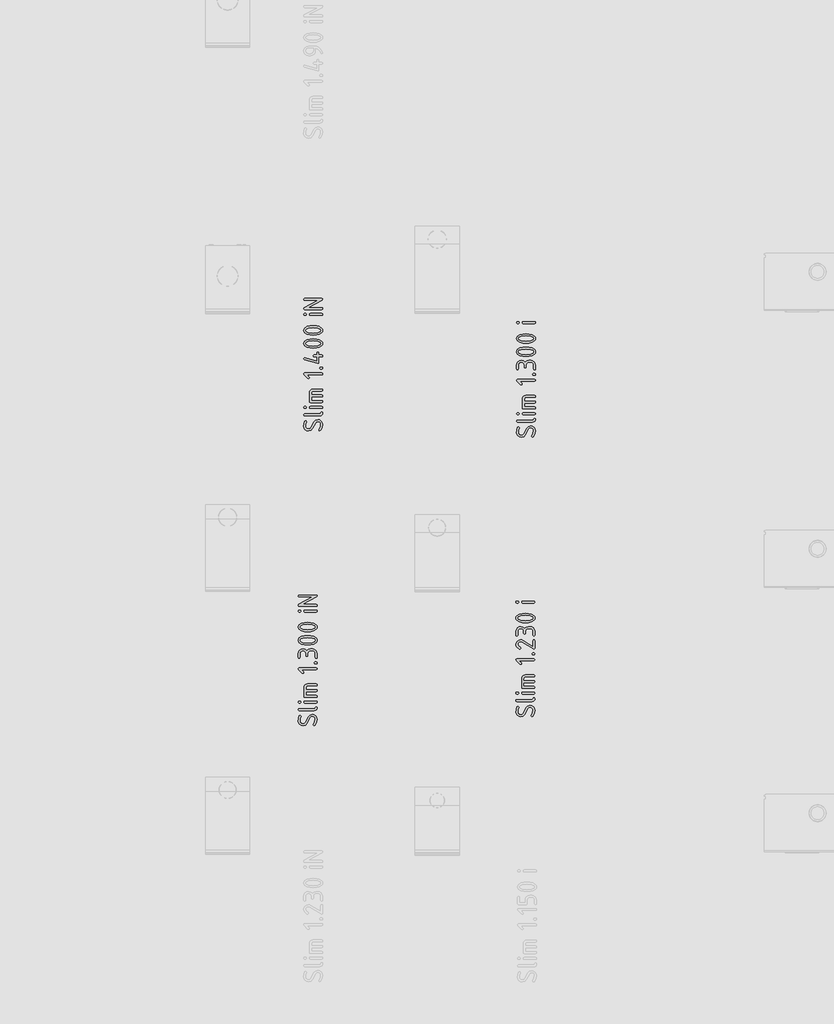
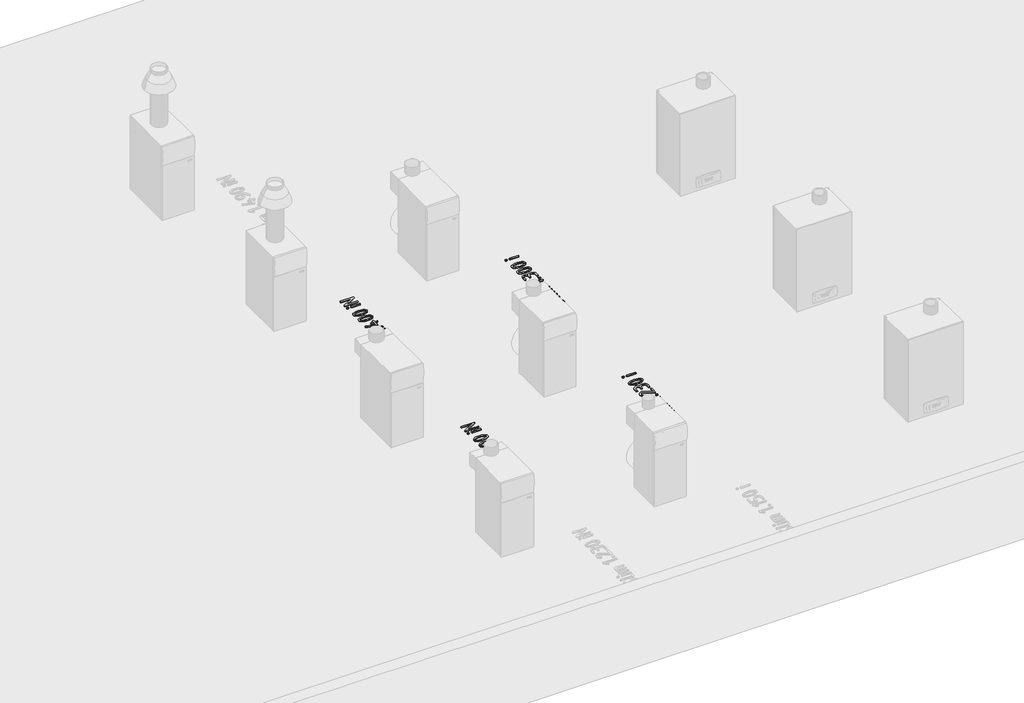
# One storey, part 9 of 37: 4 proxies.
"""IFC4 building model written with IfcOpenShell, lengths in millimetres."""

from ifc_helpers import new_model, si_unit, origin, origin_with_axes, place, context, project, spatial, polyline, outline, extrude, element, save

model = new_model("IFC4")

# Units and contexts
model_context = context("Model", 3, world=origin())
ifc_project = project(units=[si_unit("LENGTHUNIT", "METRE", prefix="MILLI")], contexts=[model_context])

# Site, building, storey
site = spatial("IfcSite", under=ifc_project)
building = spatial("IfcBuilding", under=site)
storey = spatial("IfcBuildingStorey", under=building, Name="01_Стартовый вид_Площадка", Elevation=0.0)

# Proxies
placement = place(None, origin())
element("IfcBuildingElementProxy", 1, Name="150 мм", ObjectType="150 мм", at=placement, inside=storey, context=model_context, shape_type="SweptSolid", body=[
    extrude(outline(polyline([(5779.9176697, -14982.2348931), (5794.3102344, -14984.9765718), (5806.4854851, -14993.2016078), (5814.7854305, -15005.2619977), (5817.5520789, -15019.5097378), (5813.3671486, -15045.5282187), (5800.8123576, -15068.4504504), (5794.6997625, -15071.7264817), (5789.4061752, -15069.5291436), (5787.1888613, -15064.2954837), (5788.5472158, -15060.0606139), (5799.0145355, -15039.6053937), (5802.2106637, -15019.8293506), (5800.5576662, -15011.2797078), (5795.5986736, -15004.0884194), (5788.3025122, -14999.2043361), (5779.6380085, -14997.5763083), (5767.6725037, -15000.6625695), (5759.4224979, -15009.9213533), (5737.7687295, -15051.6308259), (5724.1552211, -15066.7025678), (5704.3292386, -15071.7264817), (5689.936674, -15068.9997849), (5677.7614232, -15060.8196944), (5669.4614779, -15048.8242258), (5666.6948295, -15034.651395), (5668.7823007, -15011.4694779), (5675.0447143, -14994.5000349), (5682.0362446, -14990.0654071), (5687.3298319, -14992.282721), (5689.5471458, -14997.5763083), (5688.7481138, -15000.6925332), (5683.7142119, -15017.5720851), (5682.0362446, -15034.3317822), (5683.6892422, -15042.8065158), (5688.6482348, -15049.9328828), (5695.9443961, -15054.7720206), (5704.6088998, -15056.3850665), (5716.5444409, -15053.3487448), (5724.7045557, -15044.2397795), (5746.358324, -15002.5702585), (5760.0617235, -14987.3187344), (5779.9176697, -14982.2348931)])), origin_with_axes(), (0.0, 0.0, 1.0), 10.0),
    extrude(outline(polyline([(5674.2456822, -14951.5520627), (5668.5825427, -14949.6343858), (5666.6948295, -14943.8813551), (5668.5825427, -14938.1283244), (5674.2456822, -14936.2106475), (5794.9394721, -14936.2106475), (5799.7136886, -14934.3379161), (5802.4503733, -14928.7197221), (5805.197046, -14923.101528), (5810.0012261, -14921.2287967), (5815.6643657, -14923.0965341), (5817.5520789, -14928.6997463), (5816.0538938, -14937.9235724), (5811.5593386, -14945.2197337), (5804.4080018, -14949.9689804), (5794.9394721, -14951.5520627), (5674.2456822, -14951.5520627)])), origin_with_axes(), (0.0, 0.0, 1.0), 10.0),
    extrude(outline(polyline([(5720.0302182, -14892.7433044), (5714.427006, -14890.8256275), (5712.5592686, -14885.0725968), (5714.427006, -14879.3195661), (5720.0302182, -14877.4018892), (5810.0411777, -14877.4018892), (5815.6743536, -14879.3195661), (5817.5520789, -14885.0725968), (5815.6743536, -14890.8256275), (5810.0411777, -14892.7433044), (5720.0302182, -14892.7433044)])), origin_with_axes(), (0.0, 0.0, 1.0), 10.0),
    extrude(outline(polyline([(5681.7166318, -14892.7433044), (5674.2057306, -14892.7433044), (5668.5725547, -14890.8256275), (5666.6948295, -14885.0725968), (5668.5725547, -14879.3195661), (5674.2057306, -14877.4018892), (5681.7166318, -14877.4018892), (5687.3498077, -14879.3195661), (5689.227533, -14885.0725968), (5687.3498077, -14890.8256275), (5681.7166318, -14892.7433044)])), origin_with_axes(), (0.0, 0.0, 1.0), 10.0),
    extrude(outline(polyline([(5712.719075, -14839.0483512), (5712.719075, -14770.0119828), (5714.8864495, -14758.1113994), (5721.3885727, -14748.2183839), (5731.0468725, -14741.5514603), (5742.6827766, -14739.3291524), (5810.0811293, -14739.3291524), (5815.6843415, -14741.2468293), (5817.5520789, -14746.99986), (5815.6843415, -14752.7528907), (5810.0811293, -14754.6705676), (5742.9624378, -14754.6705676), (5732.3552875, -14759.0852197), (5728.0604902, -14770.0119828), (5728.0604902, -14785.353398), (5810.0811293, -14785.353398), (5815.6843415, -14787.2710749), (5817.5520789, -14793.0241056), (5815.6843415, -14798.7771363), (5810.0811293, -14800.6948132), (5728.0604902, -14800.6948132), (5728.0604902, -14831.3776436), (5810.0811293, -14831.3776436), (5815.6843415, -14833.2953205), (5817.5520789, -14839.0483512), (5815.6843415, -14844.8013819), (5810.0811293, -14846.7190588), (5720.1900246, -14846.7190588), (5714.5868124, -14844.8013819), (5712.719075, -14839.0483512)])), origin_with_axes(), (0.0, 0.0, 1.0), 10.0),
    extrude(outline(polyline([(5692.4236612, -14626.825441), (5709.7227049, -14644.0845331), (5711.8800914, -14649.318193), (5710.0023661, -14654.9513689), (5704.3691902, -14656.8290942), (5699.1355303, -14654.631756), (5669.651248, -14625.3072801), (5666.6948295, -14619.1547334), (5668.5825427, -14613.4017027), (5674.2456822, -14611.4840258), (5810.0012261, -14611.4840258), (5815.6643657, -14613.4017027), (5817.5520789, -14619.1547334), (5815.6643657, -14624.9077641), (5810.0012261, -14626.825441), (5692.4236612, -14626.825441)])), origin_with_axes(), (0.0, 0.0, 1.0), 10.0),
    extrude(outline(polyline([(5802.2106637, -14580.8011954), (5796.457633, -14578.8835185), (5794.5399561, -14573.1304878), (5796.457633, -14567.3774571), (5802.2106637, -14565.4597802), (5809.8813713, -14565.4597802), (5815.634402, -14567.3774571), (5817.5520789, -14573.1304878), (5815.634402, -14578.8835185), (5809.8813713, -14580.8011954), (5802.2106637, -14580.8011954)])), origin_with_axes(), (0.0, 0.0, 1.0), 10.0),
    extrude(outline(polyline([(5666.6948295, -14497.6219599), (5669.446496, -14483.1944376), (5677.7014958, -14471.0741203), (5689.8617647, -14462.8490842), (5704.3292386, -14460.1074055), (5715.1261591, -14461.8153365), (5726.0229585, -14466.9391295), (5802.2106637, -14514.2018747), (5802.2106637, -14467.6183067), (5804.1283406, -14461.9851308), (5809.8813713, -14460.1074055), (5815.634402, -14461.9851308), (5817.5520789, -14467.6183067), (5817.5520789, -14527.625613), (5815.6743536, -14533.2587889), (5810.0411777, -14535.1365142), (5805.6864531, -14533.858063), (5717.0737997, -14478.8846585), (5704.6088998, -14475.1292079), (5695.9443961, -14476.7772115), (5688.6482348, -14481.7212223), (5683.6892422, -14488.9924138), (5682.0362446, -14497.6219599), (5686.7505337, -14509.857138), (5700.8934008, -14521.1534535), (5704.5289966, -14527.625613), (5702.6512713, -14533.2587889), (5697.0180954, -14535.1365142), (5693.9418221, -14534.4173854), (5673.5065776, -14518.2469745), (5668.3977665, -14508.4912926), (5666.6948295, -14497.6219599)])), origin_with_axes(), (0.0, 0.0, 1.0), 10.0),
    extrude(outline(polyline([(5743.4019054, -14393.6279397), (5743.4019054, -14408.6097905), (5741.4842285, -14414.2429663), (5735.7311978, -14416.1206916), (5729.9781671, -14414.2429663), (5728.0604902, -14408.6097905), (5728.0604902, -14393.6279397), (5726.3875169, -14384.9234844), (5721.3685969, -14377.6672746), (5713.9425929, -14372.7682094), (5705.0483674, -14371.1351877), (5696.2040815, -14372.7831913), (5688.7680896, -14377.727202), (5683.7192059, -14384.9983936), (5682.0362446, -14393.6279397), (5682.0362446, -14423.6315928), (5680.1185677, -14429.2647687), (5674.3655371, -14431.142494), (5668.6125064, -14429.2647687), (5666.6948295, -14423.6315928), (5666.6948295, -14393.6279397), (5669.5114174, -14379.1604658), (5677.9611812, -14366.9202937), (5690.3661537, -14358.5754028), (5705.0483674, -14355.7937725), (5722.2475321, -14359.5492231), (5735.7311978, -14370.8155749), (5748.8053596, -14359.5492231), (5765.4951414, -14355.7937725), (5780.3571374, -14355.7937725), (5794.6697988, -14358.5903847), (5806.6852431, -14366.9802211), (5814.83537, -14379.235375), (5817.5520789, -14393.6279397), (5817.5520789, -14423.6315928), (5815.634402, -14429.2647687), (5809.8813713, -14431.142494), (5804.1283406, -14429.2647687), (5802.2106637, -14423.6315928), (5802.2106637, -14393.6279397), (5800.6076057, -14384.9234844), (5795.7984316, -14377.6672746), (5788.6820524, -14372.7682094), (5780.1573794, -14371.1351877), (5765.4551898, -14371.1351877), (5756.9804562, -14372.7831913), (5749.8540892, -14377.727202), (5745.0149514, -14384.9983936), (5743.4019054, -14393.6279397)])), origin_with_axes(), (0.0, 0.0, 1.0), 10.0),
    extrude(outline(polyline([(5742.1234542, -14250.9607687), (5767.2629998, -14252.5887964), (5788.7469738, -14257.4728798), (5810.3508026, -14269.8878401), (5815.7517598, -14278.2452159), (5817.5520789, -14288.0358554), (5815.7592508, -14297.8264949), (5810.3807663, -14306.1838706), (5788.8668286, -14318.598831), (5767.3528909, -14323.4829143), (5742.1234542, -14325.1109421), (5716.8940175, -14323.4829143), (5695.3800797, -14318.598831), (5673.866142, -14306.1838706), (5668.4876576, -14297.8264949), (5666.6948295, -14288.0358554), (5668.4951485, -14278.2452159), (5673.8961057, -14269.8878401), (5695.4999345, -14257.4728798), (5716.9839086, -14252.5887964), (5742.1234542, -14250.9607687)]), holes=[polyline([(5742.1234542, -14266.3021839), (5706.9660443, -14270.1375377), (5688.2686946, -14277.528584), (5682.0362446, -14288.0358554), (5688.2986583, -14298.4532356), (5707.0858992, -14305.8143183), (5742.1234542, -14309.7695269), (5777.280864, -14305.9341731), (5795.9782138, -14298.5431267), (5802.2106637, -14288.0358554), (5795.9782138, -14277.528584), (5777.280864, -14270.1375377), (5742.1234542, -14266.3021839)])]), origin_with_axes(), (0.0, 0.0, 1.0), 10.0),
    extrude(outline(polyline([(5720.0302182, -14169.1398876), (5714.427006, -14167.2222107), (5712.5592686, -14161.46918), (5714.427006, -14155.7161493), (5720.0302182, -14153.7984724), (5810.0411777, -14153.7984724), (5815.6743536, -14155.7161493), (5817.5520789, -14161.46918), (5815.6743536, -14167.2222107), (5810.0411777, -14169.1398876), (5720.0302182, -14169.1398876)])), origin_with_axes(), (0.0, 0.0, 1.0), 10.0),
    extrude(outline(polyline([(5681.7166318, -14169.1398876), (5674.2057306, -14169.1398876), (5668.5725547, -14167.2222107), (5666.6948295, -14161.46918), (5668.5725547, -14155.7161493), (5674.2057306, -14153.7984724), (5681.7166318, -14153.7984724), (5687.3498077, -14155.7161493), (5689.227533, -14161.46918), (5687.3498077, -14167.2222107), (5681.7166318, -14169.1398876)])), origin_with_axes(), (0.0, 0.0, 1.0), 10.0),
])
element("IfcBuildingElementProxy", 2, Name="150 мм", ObjectType="150 мм", at=placement, inside=storey, context=model_context, shape_type="SweptSolid", body=[
    extrude(outline(polyline([(5784.1981809, -12761.843233), (5798.5907455, -12764.5849116), (5810.7659963, -12772.8099477), (5819.0659416, -12784.8703376), (5821.83259, -12799.1180777), (5817.6476597, -12825.1365585), (5805.0928688, -12848.0587902), (5798.9802737, -12851.3348216), (5793.6866864, -12849.1374835), (5791.4693725, -12843.9038236), (5792.8277269, -12839.6689538), (5803.2950467, -12819.2137335), (5806.4911748, -12799.4376905), (5804.8381773, -12790.8880477), (5799.8791847, -12783.6967593), (5792.5830234, -12778.8126759), (5783.9185197, -12777.1846481), (5771.9530149, -12780.2709094), (5763.703009, -12789.5296932), (5742.0492407, -12831.2391658), (5728.4357323, -12846.3109076), (5708.6097498, -12851.3348216), (5694.2171851, -12848.6081248), (5682.0419344, -12840.4280342), (5673.741989, -12828.4325657), (5670.9753406, -12814.2597349), (5673.0628118, -12791.0778178), (5679.3252254, -12774.1083748), (5686.3167558, -12769.673747), (5691.6103431, -12771.8910609), (5693.827657, -12777.1846481), (5693.0286249, -12780.3008731), (5687.9947231, -12797.180425), (5686.3167558, -12813.9401221), (5687.9697533, -12822.4148556), (5692.9287459, -12829.5412227), (5700.2249073, -12834.3803605), (5708.889411, -12835.9934064), (5720.8249521, -12832.9570846), (5728.9850668, -12823.8481194), (5750.6388351, -12782.1785984), (5764.3422347, -12766.9270743), (5784.1981809, -12761.843233)])), origin_with_axes(), (0.0, 0.0, 1.0), 10.0),
    extrude(outline(polyline([(5678.5261934, -12731.1604026), (5672.8630538, -12729.2427257), (5670.9753406, -12723.489695), (5672.8630538, -12717.7366643), (5678.5261934, -12715.8189874), (5799.2199833, -12715.8189874), (5803.9941997, -12713.946256), (5806.7308845, -12708.328062), (5809.4775571, -12702.7098679), (5814.2817373, -12700.8371366), (5819.9448768, -12702.704874), (5821.83259, -12708.3080862), (5820.334405, -12717.5319123), (5815.8398497, -12724.8280736), (5808.688513, -12729.5773203), (5799.2199833, -12731.1604026), (5678.5261934, -12731.1604026)])), origin_with_axes(), (0.0, 0.0, 1.0), 10.0),
    extrude(outline(polyline([(5724.3107294, -12672.3516443), (5718.7075172, -12670.4339674), (5716.8397798, -12664.6809367), (5718.7075172, -12658.927906), (5724.3107294, -12657.0102291), (5814.3216889, -12657.0102291), (5819.9548647, -12658.927906), (5821.83259, -12664.6809367), (5819.9548647, -12670.4339674), (5814.3216889, -12672.3516443), (5724.3107294, -12672.3516443)])), origin_with_axes(), (0.0, 0.0, 1.0), 10.0),
    extrude(outline(polyline([(5685.997143, -12672.3516443), (5678.4862418, -12672.3516443), (5672.8530659, -12670.4339674), (5670.9753406, -12664.6809367), (5672.8530659, -12658.927906), (5678.4862418, -12657.0102291), (5685.997143, -12657.0102291), (5691.6303189, -12658.927906), (5693.5080442, -12664.6809367), (5691.6303189, -12670.4339674), (5685.997143, -12672.3516443)])), origin_with_axes(), (0.0, 0.0, 1.0), 10.0),
    extrude(outline(polyline([(5716.9995862, -12618.6566911), (5716.9995862, -12549.6203227), (5719.1669606, -12537.7197392), (5725.6690838, -12527.8267238), (5735.3273836, -12521.1598002), (5746.9632878, -12518.9374923), (5814.3616405, -12518.9374923), (5819.9648526, -12520.8551692), (5821.83259, -12526.6081999), (5819.9648526, -12532.3612306), (5814.3616405, -12534.2789075), (5747.242949, -12534.2789075), (5736.6357986, -12538.6935596), (5732.3410014, -12549.6203227), (5732.3410014, -12564.9617379), (5814.3616405, -12564.9617379), (5819.9648526, -12566.8794148), (5821.83259, -12572.6324455), (5819.9648526, -12578.3854762), (5814.3616405, -12580.3031531), (5732.3410014, -12580.3031531), (5732.3410014, -12610.9859835), (5814.3616405, -12610.9859835), (5819.9648526, -12612.9036604), (5821.83259, -12618.6566911), (5819.9648526, -12624.4097218), (5814.3616405, -12626.3273987), (5724.4705358, -12626.3273987), (5718.8673236, -12624.4097218), (5716.9995862, -12618.6566911)])), origin_with_axes(), (0.0, 0.0, 1.0), 10.0),
    extrude(outline(polyline([(5696.7041723, -12406.4337809), (5714.003216, -12423.692873), (5716.1606025, -12428.9265328), (5714.2828773, -12434.5597087), (5708.6497014, -12436.437434), (5703.4160415, -12434.2400959), (5673.9317592, -12404.91562), (5670.9753406, -12398.7630733), (5672.8630538, -12393.0100426), (5678.5261934, -12391.0923657), (5814.2817373, -12391.0923657), (5819.9448768, -12393.0100426), (5821.83259, -12398.7630733), (5819.9448768, -12404.516104), (5814.2817373, -12406.4337809), (5696.7041723, -12406.4337809)])), origin_with_axes(), (0.0, 0.0, 1.0), 10.0),
    extrude(outline(polyline([(5806.4911748, -12360.4095353), (5800.7381441, -12358.4918584), (5798.8204672, -12352.7388277), (5800.7381441, -12346.985797), (5806.4911748, -12345.0681201), (5814.1618824, -12345.0681201), (5819.9149131, -12346.985797), (5821.83259, -12352.7388277), (5819.9149131, -12358.4918584), (5814.1618824, -12360.4095353), (5806.4911748, -12360.4095353)])), origin_with_axes(), (0.0, 0.0, 1.0), 10.0),
    extrude(outline(polyline([(5747.6824166, -12278.0692834), (5747.6824166, -12293.0511342), (5745.7647397, -12298.6843101), (5740.011709, -12300.5620354), (5734.2586783, -12298.6843101), (5732.3410014, -12293.0511342), (5732.3410014, -12278.0692834), (5730.6680281, -12269.3648281), (5725.649108, -12262.1086184), (5718.223104, -12257.2095532), (5709.3288786, -12255.5765314), (5700.4845927, -12257.224535), (5693.0486007, -12262.1685458), (5687.999717, -12269.4397374), (5686.3167558, -12278.0692834), (5686.3167558, -12308.0729366), (5684.3990789, -12313.7061125), (5678.6460482, -12315.5838378), (5672.8930175, -12313.7061125), (5670.9753406, -12308.0729366), (5670.9753406, -12278.0692834), (5673.7919285, -12263.6018095), (5682.2416924, -12251.3616374), (5694.6466648, -12243.0167465), (5709.3288786, -12240.2351162), (5726.5280433, -12243.9905668), (5740.011709, -12255.2569186), (5753.0858708, -12243.9905668), (5769.7756525, -12240.2351162), (5784.6376485, -12240.2351162), (5798.95031, -12243.0317284), (5810.9657543, -12251.4215648), (5819.1158811, -12263.6767188), (5821.83259, -12278.0692834), (5821.83259, -12308.0729366), (5819.9149131, -12313.7061125), (5814.1618824, -12315.5838378), (5808.4088517, -12313.7061125), (5806.4911748, -12308.0729366), (5806.4911748, -12278.0692834), (5804.8881168, -12269.3648281), (5800.0789427, -12262.1086184), (5792.9625636, -12257.2095532), (5784.4378905, -12255.5765314), (5769.7357009, -12255.5765314), (5761.2609673, -12257.224535), (5754.1346003, -12262.1685458), (5749.2954625, -12269.4397374), (5747.6824166, -12278.0692834)])), origin_with_axes(), (0.0, 0.0, 1.0), 10.0),
    extrude(outline(polyline([(5746.4039653, -12135.4021124), (5771.5435109, -12137.0301402), (5793.0274849, -12141.9142235), (5814.6313138, -12154.3291839), (5820.032271, -12162.6865596), (5821.83259, -12172.4771991), (5820.0397619, -12182.2678386), (5814.6612775, -12190.6252144), (5793.1473398, -12203.0401747), (5771.633402, -12207.9242581), (5746.4039653, -12209.5522858), (5721.1745286, -12207.9242581), (5699.6605909, -12203.0401747), (5678.1466532, -12190.6252144), (5672.7681687, -12182.2678386), (5670.9753406, -12172.4771991), (5672.7756597, -12162.6865596), (5678.1766169, -12154.3291839), (5699.7804457, -12141.9142235), (5721.2644197, -12137.0301402), (5746.4039653, -12135.4021124)]), holes=[polyline([(5746.4039653, -12150.7435276), (5711.2465555, -12154.5788814), (5692.5492057, -12161.9699278), (5686.3167558, -12172.4771991), (5692.5791694, -12182.8945794), (5711.3664103, -12190.255662), (5746.4039653, -12194.2108706), (5781.5613751, -12190.3755168), (5800.2587249, -12182.9844705), (5806.4911748, -12172.4771991), (5800.2587249, -12161.9699278), (5781.5613751, -12154.5788814), (5746.4039653, -12150.7435276)])]), origin_with_axes(), (0.0, 0.0, 1.0), 10.0),
    extrude(outline(polyline([(5746.4039653, -12030.5691085), (5771.5435109, -12032.1971363), (5793.0274849, -12037.0812197), (5814.6313138, -12049.49618), (5820.032271, -12057.8535558), (5821.83259, -12067.6441953), (5820.0397619, -12077.4348347), (5814.6612775, -12085.7922105), (5793.1473398, -12098.2071709), (5771.633402, -12103.0912542), (5746.4039653, -12104.719282), (5721.1745286, -12103.0912542), (5699.6605909, -12098.2071709), (5678.1466532, -12085.7922105), (5672.7681687, -12077.4348347), (5670.9753406, -12067.6441953), (5672.7756597, -12057.8535558), (5678.1766169, -12049.49618), (5699.7804457, -12037.0812197), (5721.2644197, -12032.1971363), (5746.4039653, -12030.5691085)]), holes=[polyline([(5746.4039653, -12045.9105237), (5711.2465555, -12049.7458775), (5692.5492057, -12057.1369239), (5686.3167558, -12067.6441953), (5692.5791694, -12078.0615755), (5711.3664103, -12085.4226582), (5746.4039653, -12089.3778668), (5781.5613751, -12085.542513), (5800.2587249, -12078.1514666), (5806.4911748, -12067.6441953), (5800.2587249, -12057.1369239), (5781.5613751, -12049.7458775), (5746.4039653, -12045.9105237)])]), origin_with_axes(), (0.0, 0.0, 1.0), 10.0),
    extrude(outline(polyline([(5724.3107294, -11948.7482275), (5718.7075172, -11946.8305506), (5716.8397798, -11941.0775199), (5718.7075172, -11935.3244892), (5724.3107294, -11933.4068123), (5814.3216889, -11933.4068123), (5819.9548647, -11935.3244892), (5821.83259, -11941.0775199), (5819.9548647, -11946.8305506), (5814.3216889, -11948.7482275), (5724.3107294, -11948.7482275)])), origin_with_axes(), (0.0, 0.0, 1.0), 10.0),
    extrude(outline(polyline([(5685.997143, -11948.7482275), (5678.4862418, -11948.7482275), (5672.8530659, -11946.8305506), (5670.9753406, -11941.0775199), (5672.8530659, -11935.3244892), (5678.4862418, -11933.4068123), (5685.997143, -11933.4068123), (5691.6303189, -11935.3244892), (5693.5080442, -11941.0775199), (5691.6303189, -11946.8305506), (5685.997143, -11948.7482275)])), origin_with_axes(), (0.0, 0.0, 1.0), 10.0),
])
element("IfcBuildingElementProxy", 3, Name="150 мм", ObjectType="150 мм", at=placement, inside=storey, context=model_context, shape_type="SweptSolid", body=[
    extrude(outline(polyline([(4048.3271816, -15053.8253813), (4062.7197462, -15056.56706), (4074.8949969, -15064.792096), (4083.1949423, -15076.8524859), (4085.9615907, -15091.100226), (4081.7766604, -15117.1187068), (4069.2218694, -15140.0409385), (4063.1092743, -15143.3169699), (4057.815687, -15141.1196318), (4055.5983731, -15135.8859719), (4056.9567276, -15131.6511021), (4067.4240473, -15111.1958818), (4070.6201755, -15091.4198388), (4068.967178, -15082.870196), (4064.0081854, -15075.6789076), (4056.712024, -15070.7948242), (4048.0475203, -15069.1667965), (4036.0820155, -15072.2530577), (4027.8320097, -15081.5118415), (4006.1782414, -15123.2213141), (3992.564733, -15138.2930559), (3972.7387504, -15143.3169699), (3958.3461858, -15140.5902731), (3946.170935, -15132.4101825), (3937.8709897, -15120.414714), (3935.1043413, -15106.2418832), (3937.1918125, -15083.0599661), (3943.4542261, -15066.0905231), (3950.4457565, -15061.6558953), (3955.7393437, -15063.8732092), (3957.9566577, -15069.1667965), (3957.1576256, -15072.2830214), (3952.1237238, -15089.1625733), (3950.4457565, -15105.9222704), (3952.098754, -15114.397004), (3957.0577466, -15121.523371), (3964.3539079, -15126.3625088), (3973.0184116, -15127.9755547), (3984.9539528, -15124.939233), (3993.1140675, -15115.8302677), (4014.7678358, -15074.1607467), (4028.4712353, -15058.9092226), (4048.3271816, -15053.8253813)])), origin_with_axes(), (0.0, 0.0, 1.0), 10.0),
    extrude(outline(polyline([(3942.6551941, -15023.1425509), (3936.9920545, -15021.224874), (3935.1043413, -15015.4718433), (3936.9920545, -15009.7188126), (3942.6551941, -15007.8011357), (4063.3489839, -15007.8011357), (4068.1232004, -15005.9284043), (4070.8598851, -15000.3102103), (4073.6065578, -14994.6920162), (4078.4107379, -14992.8192849), (4084.0738775, -14994.6870223), (4085.9615907, -15000.2902345), (4084.4634056, -15009.5140606), (4079.9688504, -15016.8102219), (4072.8175136, -15021.5594686), (4063.3489839, -15023.1425509), (3942.6551941, -15023.1425509)])), origin_with_axes(), (0.0, 0.0, 1.0), 10.0),
    extrude(outline(polyline([(3988.43973, -14964.3337926), (3982.8365178, -14962.4161157), (3980.9687805, -14956.663085), (3982.8365178, -14950.9100543), (3988.43973, -14948.9923774), (4078.4506895, -14948.9923774), (4084.0838654, -14950.9100543), (4085.9615907, -14956.663085), (4084.0838654, -14962.4161157), (4078.4506895, -14964.3337926), (3988.43973, -14964.3337926)])), origin_with_axes(), (0.0, 0.0, 1.0), 10.0),
    extrude(outline(polyline([(3950.1261436, -14964.3337926), (3942.6152425, -14964.3337926), (3936.9820666, -14962.4161157), (3935.1043413, -14956.663085), (3936.9820666, -14950.9100543), (3942.6152425, -14948.9923774), (3950.1261436, -14948.9923774), (3955.7593195, -14950.9100543), (3957.6370448, -14956.663085), (3955.7593195, -14962.4161157), (3950.1261436, -14964.3337926)])), origin_with_axes(), (0.0, 0.0, 1.0), 10.0),
    extrude(outline(polyline([(3981.1285869, -14910.6388394), (3981.1285869, -14841.602471), (3983.2959613, -14829.7018876), (3989.7980845, -14819.8088721), (3999.4563843, -14813.1419485), (4011.0922884, -14810.9196406), (4078.4906411, -14810.9196406), (4084.0938533, -14812.8373175), (4085.9615907, -14818.5903482), (4084.0938533, -14824.3433789), (4078.4906411, -14826.2610558), (4011.3719496, -14826.2610558), (4000.7647993, -14830.6757079), (3996.4700021, -14841.602471), (3996.4700021, -14856.9438862), (4078.4906411, -14856.9438862), (4084.0938533, -14858.8615631), (4085.9615907, -14864.6145938), (4084.0938533, -14870.3676245), (4078.4906411, -14872.2853014), (3996.4700021, -14872.2853014), (3996.4700021, -14902.9681318), (4078.4906411, -14902.9681318), (4084.0938533, -14904.8858087), (4085.9615907, -14910.6388394), (4084.0938533, -14916.3918701), (4078.4906411, -14918.309547), (3988.5995364, -14918.309547), (3982.9963243, -14916.3918701), (3981.1285869, -14910.6388394)])), origin_with_axes(), (0.0, 0.0, 1.0), 10.0),
    extrude(outline(polyline([(3960.833173, -14698.4159292), (3978.1322167, -14715.6750213), (3980.2896032, -14720.9086812), (3978.4118779, -14726.541857), (3972.778702, -14728.4195823), (3967.5450422, -14726.2222442), (3938.0607598, -14696.8977683), (3935.1043413, -14690.7452216), (3936.9920545, -14684.9921909), (3942.6551941, -14683.074514), (4078.4107379, -14683.074514), (4084.0738775, -14684.9921909), (4085.9615907, -14690.7452216), (4084.0738775, -14696.4982523), (4078.4107379, -14698.4159292), (3960.833173, -14698.4159292)])), origin_with_axes(), (0.0, 0.0, 1.0), 10.0),
    extrude(outline(polyline([(4070.6201755, -14652.3916836), (4064.8671448, -14650.4740067), (4062.9494679, -14644.720976), (4064.8671448, -14638.9679453), (4070.6201755, -14637.0502684), (4078.2908831, -14637.0502684), (4084.0439138, -14638.9679453), (4085.9615907, -14644.720976), (4084.0439138, -14650.4740067), (4078.2908831, -14652.3916836), (4070.6201755, -14652.3916836)])), origin_with_axes(), (0.0, 0.0, 1.0), 10.0),
    extrude(outline(polyline([(4011.8114173, -14570.0514317), (4011.8114173, -14585.0332825), (4009.8937404, -14590.6664584), (4004.1407097, -14592.5441837), (3998.387679, -14590.6664584), (3996.4700021, -14585.0332825), (3996.4700021, -14570.0514317), (3994.7970287, -14561.3469764), (3989.7781087, -14554.0907667), (3982.3521047, -14549.1917015), (3973.4578793, -14547.5586797), (3964.6135934, -14549.2066833), (3957.1776014, -14554.1506941), (3952.1287177, -14561.4218857), (3950.4457565, -14570.0514317), (3950.4457565, -14600.0550849), (3948.5280796, -14605.6882608), (3942.7750489, -14607.5659861), (3937.0220182, -14605.6882608), (3935.1043413, -14600.0550849), (3935.1043413, -14570.0514317), (3937.9209292, -14555.5839578), (3946.3706931, -14543.3437857), (3958.7756655, -14534.9988948), (3973.4578793, -14532.2172645), (3990.657044, -14535.9727151), (4004.1407097, -14547.2390669), (4017.2148714, -14535.9727151), (4033.9046532, -14532.2172645), (4048.7666492, -14532.2172645), (4063.0793106, -14535.0138767), (4075.0947549, -14543.4037131), (4083.2448818, -14555.6588671), (4085.9615907, -14570.0514317), (4085.9615907, -14600.0550849), (4084.0439138, -14605.6882608), (4078.2908831, -14607.5659861), (4072.5378524, -14605.6882608), (4070.6201755, -14600.0550849), (4070.6201755, -14570.0514317), (4069.0171175, -14561.3469764), (4064.2079434, -14554.0907667), (4057.0915643, -14549.1917015), (4048.5668912, -14547.5586797), (4033.8647016, -14547.5586797), (4025.389968, -14549.2066833), (4018.263601, -14554.1506941), (4013.4244632, -14561.4218857), (4011.8114173, -14570.0514317)])), origin_with_axes(), (0.0, 0.0, 1.0), 10.0),
    extrude(outline(polyline([(4010.532966, -14427.3842607), (4035.6725116, -14429.0122885), (4057.1564856, -14433.8963718), (4078.7603144, -14446.3113322), (4084.1612716, -14454.6687079), (4085.9615907, -14464.4593474), (4084.1687626, -14474.2499869), (4078.7902781, -14482.6073627), (4057.2763404, -14495.022323), (4035.7624027, -14499.9064064), (4010.532966, -14501.5344341), (3985.3035293, -14499.9064064), (3963.7895916, -14495.022323), (3942.2756538, -14482.6073627), (3936.8971694, -14474.2499869), (3935.1043413, -14464.4593474), (3936.9046603, -14454.6687079), (3942.3056175, -14446.3113322), (3963.9094464, -14433.8963718), (3985.3934204, -14429.0122885), (4010.532966, -14427.3842607)]), holes=[polyline([(4010.532966, -14442.7256759), (3975.3755562, -14446.5610297), (3956.6782064, -14453.9520761), (3950.4457565, -14464.4593474), (3956.7081701, -14474.8767277), (3975.495411, -14482.2378103), (4010.532966, -14486.1930189), (4045.6903758, -14482.3576651), (4064.3877256, -14474.9666188), (4070.6201755, -14464.4593474), (4064.3877256, -14453.9520761), (4045.6903758, -14446.5610297), (4010.532966, -14442.7256759)])]), origin_with_axes(), (0.0, 0.0, 1.0), 10.0),
    extrude(outline(polyline([(4010.532966, -14322.5512568), (4035.6725116, -14324.1792846), (4057.1564856, -14329.063368), (4078.7603144, -14341.4783283), (4084.1612716, -14349.8357041), (4085.9615907, -14359.6263436), (4084.1687626, -14369.4169831), (4078.7902781, -14377.7743588), (4057.2763404, -14390.1893192), (4035.7624027, -14395.0734025), (4010.532966, -14396.7014303), (3985.3035293, -14395.0734025), (3963.7895916, -14390.1893192), (3942.2756538, -14377.7743588), (3936.8971694, -14369.4169831), (3935.1043413, -14359.6263436), (3936.9046603, -14349.8357041), (3942.3056175, -14341.4783283), (3963.9094464, -14329.063368), (3985.3934204, -14324.1792846), (4010.532966, -14322.5512568)]), holes=[polyline([(4010.532966, -14337.892672), (3975.3755562, -14341.7280258), (3956.6782064, -14349.1190722), (3950.4457565, -14359.6263436), (3956.7081701, -14370.0437238), (3975.495411, -14377.4048065), (4010.532966, -14381.3600151), (4045.6903758, -14377.5246613), (4064.3877256, -14370.1336149), (4070.6201755, -14359.6263436), (4064.3877256, -14349.1190722), (4045.6903758, -14341.7280258), (4010.532966, -14337.892672)])]), origin_with_axes(), (0.0, 0.0, 1.0), 10.0),
    extrude(outline(polyline([(3988.43973, -14240.7303758), (3982.8365178, -14238.8126989), (3980.9687805, -14233.0596682), (3982.8365178, -14227.3066375), (3988.43973, -14225.3889606), (4078.4506895, -14225.3889606), (4084.0838654, -14227.3066375), (4085.9615907, -14233.0596682), (4084.0838654, -14238.8126989), (4078.4506895, -14240.7303758), (3988.43973, -14240.7303758)])), origin_with_axes(), (0.0, 0.0, 1.0), 10.0),
    extrude(outline(polyline([(3950.1261436, -14240.7303758), (3942.6152425, -14240.7303758), (3936.9820666, -14238.8126989), (3935.1043413, -14233.0596682), (3936.9820666, -14227.3066375), (3942.6152425, -14225.3889606), (3950.1261436, -14225.3889606), (3955.7593195, -14227.3066375), (3957.6370448, -14233.0596682), (3955.7593195, -14238.8126989), (3950.1261436, -14240.7303758)])), origin_with_axes(), (0.0, 0.0, 1.0), 10.0),
    extrude(outline(polyline([(4049.28602, -14120.5559567), (3942.6551941, -14120.5559567), (3936.9920545, -14118.6382798), (3935.1043413, -14112.8852491), (3936.9920545, -14107.1322184), (3942.6551941, -14105.2145415), (4078.4107379, -14105.2145415), (4084.0738775, -14107.2520733), (4085.9615907, -14113.3646684), (4082.2061401, -14120.5559567), (3971.6600572, -14179.364715), (4078.4107379, -14179.364715), (4084.0738775, -14181.2823919), (4085.9615907, -14187.0354226), (4084.0738775, -14192.7884533), (4078.4107379, -14194.7061302), (3942.6551941, -14194.7061302), (3936.9920545, -14192.7085501), (3935.1043413, -14186.7158098), (3939.5789207, -14179.364715), (4049.28602, -14120.5559567)])), origin_with_axes(), (0.0, 0.0, 1.0), 10.0),
])
element("IfcBuildingElementProxy", 4, Name="150 мм", ObjectType="150 мм", at=placement, inside=storey, context=model_context, shape_type="SweptSolid", body=[
    extrude(outline(polyline([(4092.553865, -12711.7091282), (4106.9464297, -12714.4508069), (4119.1216804, -12722.675843), (4127.4216257, -12734.7362328), (4130.1882742, -12748.9839729), (4126.0033439, -12775.0024538), (4113.4485529, -12797.9246855), (4107.3359578, -12801.2007169), (4102.0423705, -12799.0033787), (4099.8250566, -12793.7697189), (4101.1834111, -12789.534849), (4111.6507308, -12769.0796288), (4114.846859, -12749.3035858), (4113.1938614, -12740.7539429), (4108.2348688, -12733.5626545), (4100.9387075, -12728.6785712), (4092.2742038, -12727.0505434), (4080.308699, -12730.1368047), (4072.0586931, -12739.3955884), (4050.4049248, -12781.105061), (4036.7914164, -12796.1768029), (4016.9654339, -12801.2007169), (4002.5728692, -12798.47402), (3990.3976185, -12790.2939295), (3982.0976732, -12778.298461), (3979.3310247, -12764.1256301), (3981.4184959, -12740.943713), (3987.6809096, -12723.97427), (3994.6724399, -12719.5396422), (3999.9660272, -12721.7569561), (4002.1833411, -12727.0505434), (4001.3843091, -12730.1667684), (3996.3504072, -12747.0463202), (3994.6724399, -12763.8060173), (3996.3254375, -12772.2807509), (4001.2844301, -12779.4071179), (4008.5805914, -12784.2462557), (4017.2450951, -12785.8593017), (4029.1806362, -12782.8229799), (4037.3407509, -12773.7140146), (4058.9945193, -12732.0444937), (4072.6979188, -12716.7929696), (4092.553865, -12711.7091282)])), origin_with_axes(), (0.0, 0.0, 1.0), 10.0),
    extrude(outline(polyline([(3986.8818775, -12681.0262978), (3981.2187379, -12679.1086209), (3979.3310247, -12673.3555902), (3981.2187379, -12667.6025595), (3986.8818775, -12665.6848826), (4107.5756674, -12665.6848826), (4112.3498838, -12663.8121513), (4115.0865686, -12658.1939572), (4117.8332412, -12652.5757632), (4122.6374214, -12650.7030318), (4128.300561, -12652.5707692), (4130.1882742, -12658.1739814), (4128.6900891, -12667.3978075), (4124.1955339, -12674.6939689), (4117.0441971, -12679.4432156), (4107.5756674, -12681.0262978), (3986.8818775, -12681.0262978)])), origin_with_axes(), (0.0, 0.0, 1.0), 10.0),
    extrude(outline(polyline([(4032.6664135, -12622.2175396), (4027.0632013, -12620.2998627), (4025.1954639, -12614.546832), (4027.0632013, -12608.7938013), (4032.6664135, -12606.8761244), (4122.677373, -12606.8761244), (4128.3105489, -12608.7938013), (4130.1882742, -12614.546832), (4128.3105489, -12620.2998627), (4122.677373, -12622.2175396), (4032.6664135, -12622.2175396)])), origin_with_axes(), (0.0, 0.0, 1.0), 10.0),
    extrude(outline(polyline([(3994.3528271, -12622.2175396), (3986.8419259, -12622.2175396), (3981.20875, -12620.2998627), (3979.3310247, -12614.546832), (3981.20875, -12608.7938013), (3986.8419259, -12606.8761244), (3994.3528271, -12606.8761244), (3999.986003, -12608.7938013), (4001.8637283, -12614.546832), (3999.986003, -12620.2998627), (3994.3528271, -12622.2175396)])), origin_with_axes(), (0.0, 0.0, 1.0), 10.0),
    extrude(outline(polyline([(4025.3552703, -12568.5225864), (4025.3552703, -12499.486218), (4027.5226447, -12487.5856345), (4034.024768, -12477.692619), (4043.6830678, -12471.0256954), (4055.3189719, -12468.8033876), (4122.7173246, -12468.8033876), (4128.3205368, -12470.7210645), (4130.1882742, -12476.4740952), (4128.3205368, -12482.2271259), (4122.7173246, -12484.1448028), (4055.5986331, -12484.1448028), (4044.9914827, -12488.5594548), (4040.6966855, -12499.486218), (4040.6966855, -12514.8276332), (4122.7173246, -12514.8276332), (4128.3205368, -12516.7453101), (4130.1882742, -12522.4983408), (4128.3205368, -12528.2513715), (4122.7173246, -12530.1690484), (4040.6966855, -12530.1690484), (4040.6966855, -12560.8518788), (4122.7173246, -12560.8518788), (4128.3205368, -12562.7695557), (4130.1882742, -12568.5225864), (4128.3205368, -12574.2756171), (4122.7173246, -12576.193294), (4032.8262199, -12576.193294), (4027.2230077, -12574.2756171), (4025.3552703, -12568.5225864)])), origin_with_axes(), (0.0, 0.0, 1.0), 10.0),
    extrude(outline(polyline([(4005.0598565, -12356.2996761), (4022.3589002, -12373.5587682), (4024.5162867, -12378.7924281), (4022.6385614, -12384.425604), (4017.0053855, -12386.3033293), (4011.7717256, -12384.1059912), (3982.2874433, -12354.7815152), (3979.3310247, -12348.6289685), (3981.2187379, -12342.8759378), (3986.8818775, -12340.9582609), (4122.6374214, -12340.9582609), (4128.300561, -12342.8759378), (4130.1882742, -12348.6289685), (4128.300561, -12354.3819992), (4122.6374214, -12356.2996761), (4005.0598565, -12356.2996761)])), origin_with_axes(), (0.0, 0.0, 1.0), 10.0),
    extrude(outline(polyline([(4114.846859, -12310.2754305), (4109.0938283, -12308.3577536), (4107.1761514, -12302.6047229), (4109.0938283, -12296.8516922), (4114.846859, -12294.9340153), (4122.5175666, -12294.9340153), (4128.2705973, -12296.8516922), (4130.1882742, -12302.6047229), (4128.2705973, -12308.3577536), (4122.5175666, -12310.2754305), (4114.846859, -12310.2754305)])), origin_with_axes(), (0.0, 0.0, 1.0), 10.0),
    extrude(outline(polyline([(4091.9945426, -12265.649491), (4089.9570109, -12265.4097814), (3984.8043942, -12235.4061282), (3980.6993671, -12232.7892983), (3979.3310247, -12228.1349367), (3981.1987621, -12222.5017608), (3986.8019743, -12220.6240355), (3988.9593608, -12220.9835999), (4084.1640286, -12248.2305925), (4084.1640286, -12213.1131343), (4061.631325, -12213.1131343), (4056.0281128, -12211.1954574), (4054.1603754, -12205.4424267), (4056.0281128, -12199.689396), (4061.631325, -12197.7717191), (4084.1640286, -12197.7717191), (4084.1640286, -12182.7499167), (4086.0817055, -12177.1467045), (4091.8347362, -12175.2789671), (4097.5877669, -12177.1467045), (4099.5054438, -12182.7499167), (4099.5054438, -12197.7717191), (4122.5175666, -12197.7717191), (4128.2705973, -12199.689396), (4130.1882742, -12205.4424267), (4128.2705973, -12211.1954574), (4122.5175666, -12213.1131343), (4099.5054438, -12213.1131343), (4099.5054438, -12258.1385898), (4097.6277185, -12263.7717657), (4091.9945426, -12265.649491)])), origin_with_axes(), (0.0, 0.0, 1.0), 10.0),
    extrude(outline(polyline([(4054.7596494, -12069.9265924), (4079.8991951, -12071.5546202), (4101.3831691, -12076.4387036), (4122.9869979, -12088.8536639), (4128.3879551, -12097.2110397), (4130.1882742, -12107.0016792), (4128.395446, -12116.7923187), (4123.0169616, -12125.1496944), (4101.5030239, -12137.5646548), (4079.9890862, -12142.4487381), (4054.7596494, -12144.0767659), (4029.5302127, -12142.4487381), (4008.016275, -12137.5646548), (3986.5023373, -12125.1496944), (3981.1238529, -12116.7923187), (3979.3310247, -12107.0016792), (3981.1313438, -12097.2110397), (3986.532301, -12088.8536639), (4008.1361298, -12076.4387036), (4029.6201038, -12071.5546202), (4054.7596494, -12069.9265924)]), holes=[polyline([(4054.7596494, -12085.2680076), (4019.6022396, -12089.1033614), (4000.9048898, -12096.4944078), (3994.6724399, -12107.0016792), (4000.9348535, -12117.4190594), (4019.7220944, -12124.7801421), (4054.7596494, -12128.7353507), (4089.9170593, -12124.8999969), (4108.614409, -12117.5089505), (4114.846859, -12107.0016792), (4108.614409, -12096.4944078), (4089.9170593, -12089.1033614), (4054.7596494, -12085.2680076)])]), origin_with_axes(), (0.0, 0.0, 1.0), 10.0),
    extrude(outline(polyline([(4054.7596494, -11965.0935886), (4079.8991951, -11966.7216164), (4101.3831691, -11971.6056997), (4122.9869979, -11984.0206601), (4128.3879551, -11992.3780358), (4130.1882742, -12002.1686753), (4128.395446, -12011.9593148), (4123.0169616, -12020.3166906), (4101.5030239, -12032.7316509), (4079.9890862, -12037.6157343), (4054.7596494, -12039.243762), (4029.5302127, -12037.6157343), (4008.016275, -12032.7316509), (3986.5023373, -12020.3166906), (3981.1238529, -12011.9593148), (3979.3310247, -12002.1686753), (3981.1313438, -11992.3780358), (3986.532301, -11984.0206601), (4008.1361298, -11971.6056997), (4029.6201038, -11966.7216164), (4054.7596494, -11965.0935886)]), holes=[polyline([(4054.7596494, -11980.4350038), (4019.6022396, -11984.2703576), (4000.9048898, -11991.661404), (3994.6724399, -12002.1686753), (4000.9348535, -12012.5860556), (4019.7220944, -12019.9471382), (4054.7596494, -12023.9023468), (4089.9170593, -12020.066993), (4108.614409, -12012.6759467), (4114.846859, -12002.1686753), (4108.614409, -11991.661404), (4089.9170593, -11984.2703576), (4054.7596494, -11980.4350038)])]), origin_with_axes(), (0.0, 0.0, 1.0), 10.0),
    extrude(outline(polyline([(3994.3528271, -11883.2727075), (3986.8419259, -11883.2727075), (3981.20875, -11881.3550306), (3979.3310247, -11875.6019999), (3981.20875, -11869.8489692), (3986.8419259, -11867.9312923), (3994.3528271, -11867.9312923), (3999.986003, -11869.8489692), (4001.8637283, -11875.6019999), (3999.986003, -11881.3550306), (3994.3528271, -11883.2727075)])), origin_with_axes(), (0.0, 0.0, 1.0), 10.0),
    extrude(outline(polyline([(4032.6664135, -11883.2727075), (4027.0632013, -11881.3550306), (4025.1954639, -11875.6019999), (4027.0632013, -11869.8489692), (4032.6664135, -11867.9312923), (4122.677373, -11867.9312923), (4128.3105489, -11869.8489692), (4130.1882742, -11875.6019999), (4128.3105489, -11881.3550306), (4122.677373, -11883.2727075), (4032.6664135, -11883.2727075)])), origin_with_axes(), (0.0, 0.0, 1.0), 10.0),
    extrude(outline(polyline([(4093.5127035, -11763.0982885), (3986.8818775, -11763.0982885), (3981.2187379, -11761.1806116), (3979.3310247, -11755.4275809), (3981.2187379, -11749.6745502), (3986.8818775, -11747.7568733), (4122.6374214, -11747.7568733), (4128.300561, -11749.794405), (4130.1882742, -11755.9070001), (4126.4328236, -11763.0982885), (4015.8867406, -11821.9070467), (4122.6374214, -11821.9070467), (4128.300561, -11823.8247236), (4130.1882742, -11829.5777543), (4128.300561, -11835.330785), (4122.6374214, -11837.2484619), (3986.8818775, -11837.2484619), (3981.2187379, -11835.2508818), (3979.3310247, -11829.2581415), (3983.8056042, -11821.9070467), (4093.5127035, -11763.0982885)])), origin_with_axes(), (0.0, 0.0, 1.0), 10.0),
])

save(model, "model.ifc")
